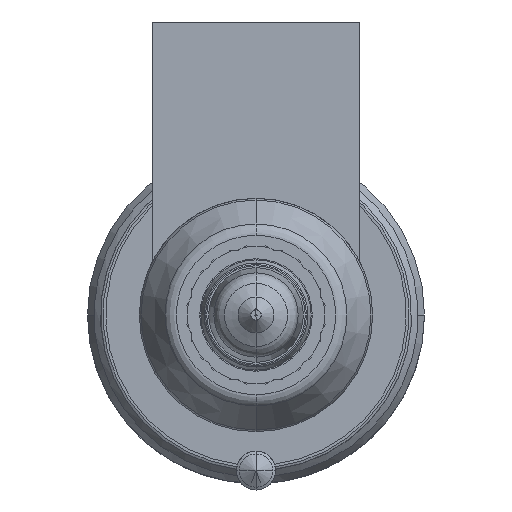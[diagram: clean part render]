
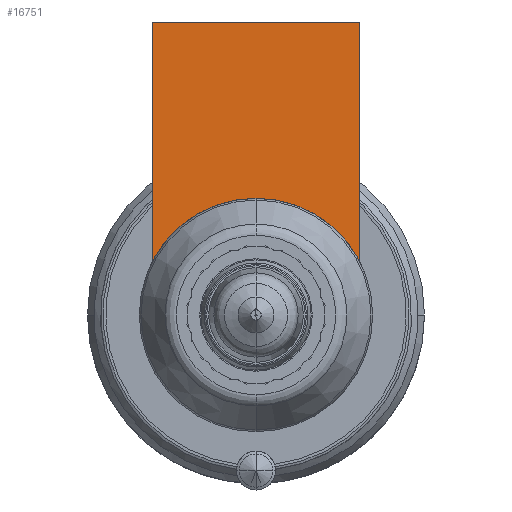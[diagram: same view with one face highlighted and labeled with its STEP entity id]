
A CAD part, front view. The second image highlights one B-rep face of the part: STEP entity #16751.
In plain terms, the highlighted planar face has unit normal (0, -1, 0).
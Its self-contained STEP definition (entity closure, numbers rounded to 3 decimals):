
#15114=DIRECTION('',(0.,0.,-1.));
#15115=VECTOR('',#15114,18.481);
#15116=CARTESIAN_POINT('',(-8.,-54.,22.604));
#15117=LINE('',#15116,#15115);
#15740=CARTESIAN_POINT('',(0.,-54.,0.));
#15741=DIRECTION('',(0.,-1.,0.));
#15742=DIRECTION('',(0.,0.,1.));
#15743=AXIS2_PLACEMENT_3D('',#15740,#15741,#15742);
#15748=DIRECTION('',(1.,0.,0.));
#15749=VECTOR('',#15748,16.);
#15750=CARTESIAN_POINT('',(-8.,-54.,22.604));
#15751=LINE('',#15750,#15749);
#15755=CARTESIAN_POINT('',(0.,-54.,0.));
#15756=DIRECTION('',(0.,-1.,0.));
#15757=DIRECTION('',(0.889,0.,0.458));
#15758=AXIS2_PLACEMENT_3D('',#15755,#15756,#15757);
#15839=DIRECTION('',(0.,0.,-1.));
#15840=VECTOR('',#15839,18.481);
#15841=CARTESIAN_POINT('',(8.,-54.,22.604));
#15842=LINE('',#15841,#15840);
#15948=CARTESIAN_POINT('',(-8.,-54.,22.604));
#15949=VERTEX_POINT('',#15948);
#15954=CARTESIAN_POINT('',(8.,-54.,22.604));
#15955=VERTEX_POINT('',#15954);
#15957=CARTESIAN_POINT('',(-8.,-54.,4.123));
#15959=VERTEX_POINT('',#15957);
#15961=CARTESIAN_POINT('',(8.,-54.,4.123));
#15963=VERTEX_POINT('',#15961);
#15964=CARTESIAN_POINT('',(0.,-54.,9.));
#15965=VERTEX_POINT('',#15964);
#16737=CARTESIAN_POINT('',(-8.,-54.,22.604));
#16738=DIRECTION('',(0.,-1.,0.));
#16739=DIRECTION('',(0.,0.,-1.));
#16740=AXIS2_PLACEMENT_3D('',#16737,#16738,#16739);
#16741=PLANE('',#16740);
#16742=ORIENTED_EDGE('',*,*,#16005,.T.);
#16743=ORIENTED_EDGE('',*,*,#15988,.F.);
#16745=ORIENTED_EDGE('',*,*,#16744,.T.);
#16747=ORIENTED_EDGE('',*,*,#16746,.T.);
#16748=ORIENTED_EDGE('',*,*,#16053,.T.);
#16749=EDGE_LOOP('',(#16742,#16743,#16745,#16747,#16748));
#16750=FACE_OUTER_BOUND('',#16749,.F.);
#16751=ADVANCED_FACE('',(#16750),#16741,.T.);
#15744=CIRCLE('',#15743,9.);
#15759=CIRCLE('',#15758,9.);
#15988=EDGE_CURVE('',#15949,#15959,#15117,.T.);
#16005=EDGE_CURVE('',#15965,#15959,#15744,.T.);
#16053=EDGE_CURVE('',#15963,#15965,#15759,.T.);
#16744=EDGE_CURVE('',#15949,#15955,#15751,.T.);
#16746=EDGE_CURVE('',#15955,#15963,#15842,.T.);
